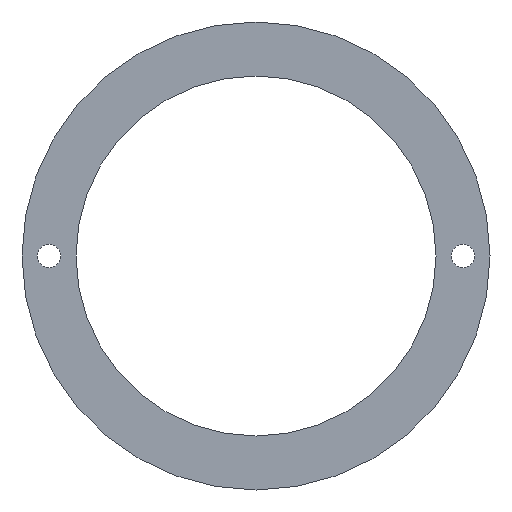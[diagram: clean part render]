
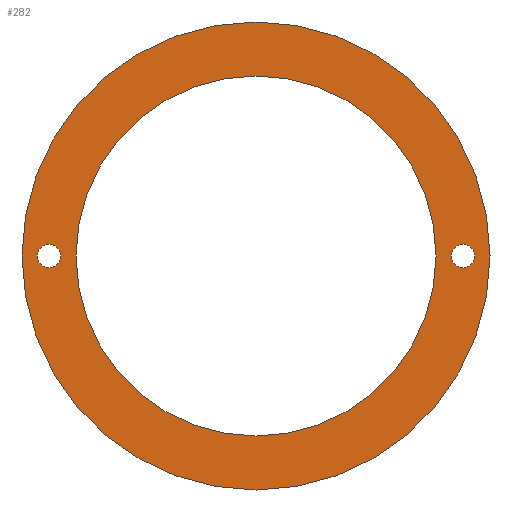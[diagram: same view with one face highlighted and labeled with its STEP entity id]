
A CAD part, front view. The second image highlights one B-rep face of the part: STEP entity #282.
In plain terms, the highlighted planar face has unit normal (0, -1, 0).
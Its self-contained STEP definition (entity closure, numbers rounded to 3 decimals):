
#2 = DIRECTION ( 'NONE',  ( 0., 1., 0. ) ) ;
#4 = CARTESIAN_POINT ( 'NONE',  ( 0., 0., 0. ) ) ;
#9 = FACE_OUTER_BOUND ( 'NONE', #66, .T. ) ;
#11 = CIRCLE ( 'NONE', #265, 3.25 ) ;
#15 = VERTEX_POINT ( 'NONE', #195 ) ;
#21 = EDGE_CURVE ( 'NONE', #153, #150, #51, .T. ) ;
#29 = DIRECTION ( 'NONE',  ( 0., 1., 0. ) ) ;
#32 = CARTESIAN_POINT ( 'NONE',  ( 0., 0., 50. ) ) ;
#38 = DIRECTION ( 'NONE',  ( 0., 0., 1. ) ) ;
#44 = FACE_BOUND ( 'NONE', #196, .T. ) ;
#45 = CARTESIAN_POINT ( 'NONE',  ( -57.5, 0., 0. ) ) ;
#51 = CIRCLE ( 'NONE', #108, 3.25 ) ;
#53 = DIRECTION ( 'NONE',  ( 0., 0., 1. ) ) ;
#57 = DIRECTION ( 'NONE',  ( 0., 1., 0. ) ) ;
#62 = CARTESIAN_POINT ( 'NONE',  ( 0., 0., -50. ) ) ;
#63 = CARTESIAN_POINT ( 'NONE',  ( 57.5, 0., 0. ) ) ;
#66 = EDGE_LOOP ( 'NONE', ( #164, #220 ) ) ;
#69 = EDGE_CURVE ( 'NONE', #232, #235, #190, .T. ) ;
#83 = CARTESIAN_POINT ( 'NONE',  ( -57.5, 0., 0. ) ) ;
#86 = PLANE ( 'NONE',  #181 ) ;
#87 = EDGE_CURVE ( 'NONE', #91, #349, #11, .T. ) ;
#91 = VERTEX_POINT ( 'NONE', #237 ) ;
#93 = EDGE_CURVE ( 'NONE', #235, #232, #151, .T. ) ;
#95 = ORIENTED_EDGE ( 'NONE', *, *, #93, .T. ) ;
#100 = AXIS2_PLACEMENT_3D ( 'NONE', #251, #57, #226 ) ;
#104 = DIRECTION ( 'NONE',  ( 0., 0., 1. ) ) ;
#108 = AXIS2_PLACEMENT_3D ( 'NONE', #45, #136, #104 ) ;
#112 = ORIENTED_EDGE ( 'NONE', *, *, #87, .T. ) ;
#128 = DIRECTION ( 'NONE',  ( 0., 1., 0. ) ) ;
#134 = FACE_BOUND ( 'NONE', #241, .T. ) ;
#136 = DIRECTION ( 'NONE',  ( 0., 1., 0. ) ) ;
#137 = EDGE_LOOP ( 'NONE', ( #311, #95 ) ) ;
#142 = CARTESIAN_POINT ( 'NONE',  ( 57.5, 0., -3.25 ) ) ;
#144 = DIRECTION ( 'NONE',  ( 0., 1., 0. ) ) ;
#150 = VERTEX_POINT ( 'NONE', #243 ) ;
#151 = CIRCLE ( 'NONE', #281, 50. ) ;
#153 = VERTEX_POINT ( 'NONE', #234 ) ;
#162 = FACE_BOUND ( 'NONE', #137, .T. ) ;
#164 = ORIENTED_EDGE ( 'NONE', *, *, #324, .F. ) ;
#167 = DIRECTION ( 'NONE',  ( 0., 0., 1. ) ) ;
#168 = CIRCLE ( 'NONE', #214, 3.25 ) ;
#176 = VERTEX_POINT ( 'NONE', #178 ) ;
#178 = CARTESIAN_POINT ( 'NONE',  ( 0., 0., -65. ) ) ;
#179 = CIRCLE ( 'NONE', #100, 3.25 ) ;
#181 = AXIS2_PLACEMENT_3D ( 'NONE', #300, #29, #203 ) ;
#190 = CIRCLE ( 'NONE', #216, 50. ) ;
#195 = CARTESIAN_POINT ( 'NONE',  ( 0., 0., 65. ) ) ;
#196 = EDGE_LOOP ( 'NONE', ( #266, #204 ) ) ;
#197 = AXIS2_PLACEMENT_3D ( 'NONE', #331, #144, #303 ) ;
#203 = DIRECTION ( 'NONE',  ( 0., 0., 1. ) ) ;
#204 = ORIENTED_EDGE ( 'NONE', *, *, #21, .T. ) ;
#214 = AXIS2_PLACEMENT_3D ( 'NONE', #83, #248, #53 ) ;
#216 = AXIS2_PLACEMENT_3D ( 'NONE', #4, #277, #38 ) ;
#217 = CARTESIAN_POINT ( 'NONE',  ( 0., 0., 0. ) ) ;
#220 = ORIENTED_EDGE ( 'NONE', *, *, #294, .F. ) ;
#223 = CIRCLE ( 'NONE', #197, 65. ) ;
#226 = DIRECTION ( 'NONE',  ( 0., 0., 1. ) ) ;
#232 = VERTEX_POINT ( 'NONE', #62 ) ;
#234 = CARTESIAN_POINT ( 'NONE',  ( -57.5, 0., 3.25 ) ) ;
#235 = VERTEX_POINT ( 'NONE', #32 ) ;
#237 = CARTESIAN_POINT ( 'NONE',  ( 57.5, 0., 3.25 ) ) ;
#241 = EDGE_LOOP ( 'NONE', ( #302, #112 ) ) ;
#243 = CARTESIAN_POINT ( 'NONE',  ( -57.5, 0., -3.25 ) ) ;
#244 = CARTESIAN_POINT ( 'NONE',  ( 0., 0., 0. ) ) ;
#248 = DIRECTION ( 'NONE',  ( 0., 1., 0. ) ) ;
#251 = CARTESIAN_POINT ( 'NONE',  ( 57.5, 0., 0. ) ) ;
#265 = AXIS2_PLACEMENT_3D ( 'NONE', #63, #2, #318 ) ;
#266 = ORIENTED_EDGE ( 'NONE', *, *, #304, .T. ) ;
#273 = AXIS2_PLACEMENT_3D ( 'NONE', #244, #128, #286 ) ;
#276 = EDGE_CURVE ( 'NONE', #349, #91, #179, .T. ) ;
#277 = DIRECTION ( 'NONE',  ( 0., 1., 0. ) ) ;
#278 = CIRCLE ( 'NONE', #273, 65. ) ;
#281 = AXIS2_PLACEMENT_3D ( 'NONE', #217, #295, #167 ) ;
#282 = ADVANCED_FACE ( 'NONE', ( #9, #162, #44, #134 ), #86, .F. ) ;
#286 = DIRECTION ( 'NONE',  ( 0., 0., 1. ) ) ;
#294 = EDGE_CURVE ( 'NONE', #15, #176, #223, .T. ) ;
#295 = DIRECTION ( 'NONE',  ( 0., 1., 0. ) ) ;
#300 = CARTESIAN_POINT ( 'NONE',  ( 0., 0., 0. ) ) ;
#302 = ORIENTED_EDGE ( 'NONE', *, *, #276, .T. ) ;
#303 = DIRECTION ( 'NONE',  ( 0., 0., 1. ) ) ;
#304 = EDGE_CURVE ( 'NONE', #150, #153, #168, .T. ) ;
#311 = ORIENTED_EDGE ( 'NONE', *, *, #69, .T. ) ;
#318 = DIRECTION ( 'NONE',  ( 0., 0., 1. ) ) ;
#324 = EDGE_CURVE ( 'NONE', #176, #15, #278, .T. ) ;
#331 = CARTESIAN_POINT ( 'NONE',  ( 0., 0., 0. ) ) ;
#349 = VERTEX_POINT ( 'NONE', #142 ) ;
